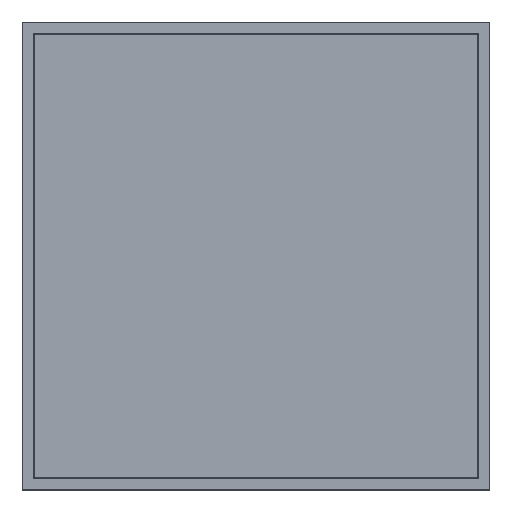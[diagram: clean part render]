
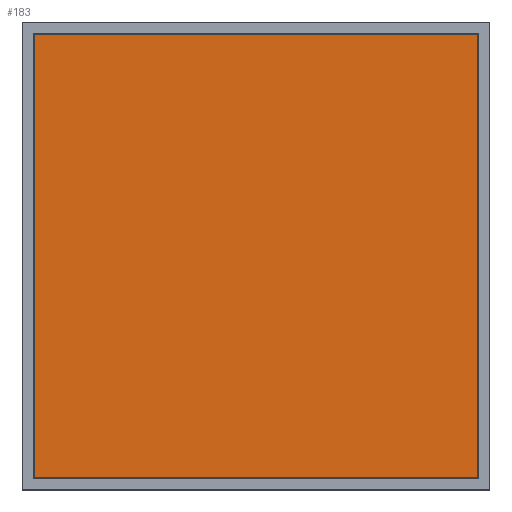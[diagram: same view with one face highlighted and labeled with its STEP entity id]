
A CAD part, top view. The second image highlights one B-rep face of the part: STEP entity #183.
In plain terms, the highlighted planar face has unit normal (0, 0, 1).
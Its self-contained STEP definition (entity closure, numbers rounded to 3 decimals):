
#142=FACE_OUTER_BOUND('',#286,.T.);
#183=ADVANCED_FACE('',(#142),#224,.T.);
#224=PLANE('',#872);
#286=EDGE_LOOP('',(#475,#476,#477,#478));
#475=ORIENTED_EDGE('',*,*,#631,.T.);
#476=ORIENTED_EDGE('',*,*,#634,.T.);
#477=ORIENTED_EDGE('',*,*,#636,.T.);
#478=ORIENTED_EDGE('',*,*,#638,.T.);
#539=VERTEX_POINT('',#1239);
#540=VERTEX_POINT('',#1240);
#541=VERTEX_POINT('',#1245);
#542=VERTEX_POINT('',#1249);
#631=EDGE_CURVE('',#539,#540,#727,.T.);
#634=EDGE_CURVE('',#540,#541,#730,.T.);
#636=EDGE_CURVE('',#541,#542,#732,.T.);
#638=EDGE_CURVE('',#542,#539,#734,.T.);
#727=LINE('',#1238,#823);
#730=LINE('',#1244,#826);
#732=LINE('',#1248,#828);
#734=LINE('',#1252,#830);
#823=VECTOR('',#1035,1.);
#826=VECTOR('',#1040,1.);
#828=VECTOR('',#1044,1.);
#830=VECTOR('',#1048,1.);
#872=AXIS2_PLACEMENT_3D('',#1254,#1051,#1052);
#1035=DIRECTION('',(0.,-1.,0.));
#1040=DIRECTION('',(1.,0.,0.));
#1044=DIRECTION('',(0.,1.,0.));
#1048=DIRECTION('',(-1.,0.,0.));
#1051=DIRECTION('',(0.,0.,1.));
#1052=DIRECTION('',(-1.,0.,0.));
#1238=CARTESIAN_POINT('',(-213.2,-214.,8.8));
#1239=CARTESIAN_POINT('',(-213.2,213.2,8.8));
#1240=CARTESIAN_POINT('',(-213.2,-213.2,8.8));
#1244=CARTESIAN_POINT('',(214.,-213.2,8.8));
#1245=CARTESIAN_POINT('',(213.2,-213.2,8.8));
#1248=CARTESIAN_POINT('',(213.2,-214.,8.8));
#1249=CARTESIAN_POINT('',(213.2,213.2,8.8));
#1252=CARTESIAN_POINT('',(214.,213.2,8.8));
#1254=CARTESIAN_POINT('',(0.,0.,8.8));
